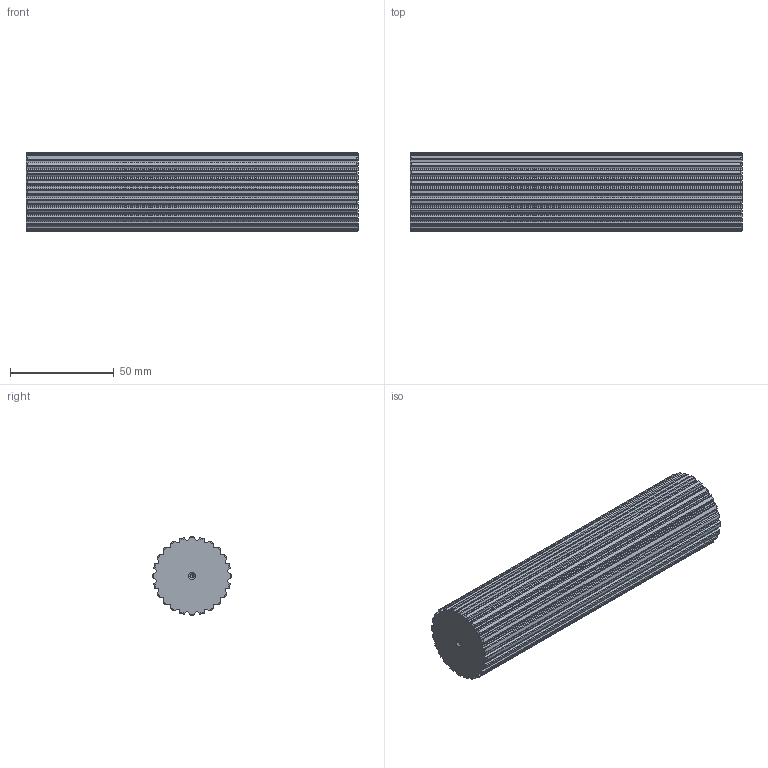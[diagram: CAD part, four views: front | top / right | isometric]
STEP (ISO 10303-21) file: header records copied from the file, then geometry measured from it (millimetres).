
FILE_DESCRIPTION(('STEP AP203'),'1');
FILE_NAME('bart_24.stp','2022-04-12T14:14:30',('TraceParts'),('TraceParts S.A.'),'Spatial InterOp 3D',' ',' ');
FILE_SCHEMA(('CONFIG_CONTROL_DESIGN'));
Length unit declared in the file: millimetre
Products named in the file (1): 1
Bounding box: 160 x 37.69 x 37.69 mm (x, y, z)
Volume: 168021.5 mm3; surface area: 25864 mm2
Topology: 1 solids, 1 shells, 258 faces, 760 edges, 502 vertices
Faces by surface type: cylinder 148, cone 60, plane 50
Entity records: 9252 total; most frequent: CARTESIAN_POINT 2573, ORIENTED_EDGE 1512, DIRECTION 1342, EDGE_CURVE 756, AXIS2_PLACEMENT_3D 519, VERTEX_POINT 502, LINE 304, VECTOR 304
